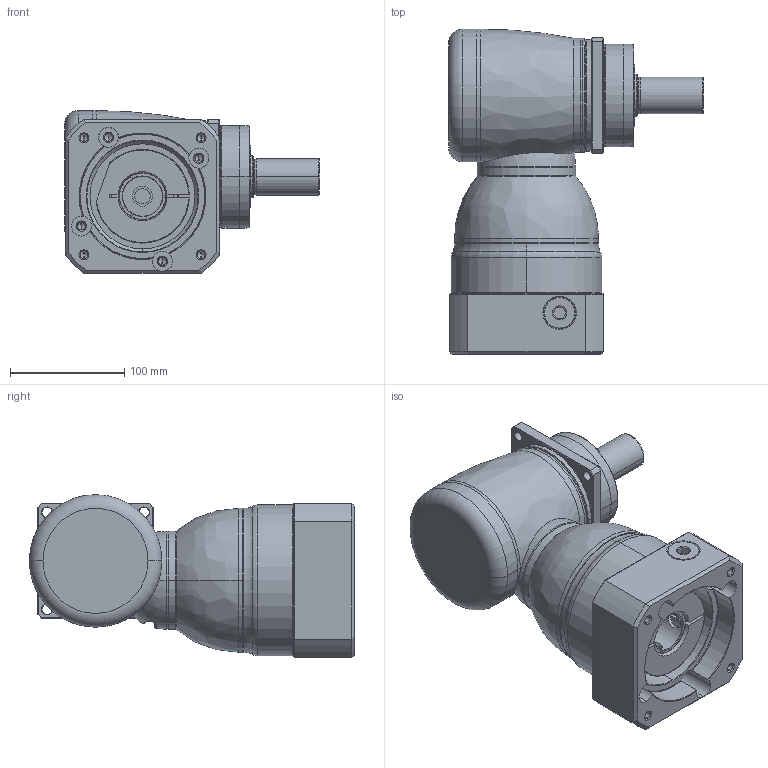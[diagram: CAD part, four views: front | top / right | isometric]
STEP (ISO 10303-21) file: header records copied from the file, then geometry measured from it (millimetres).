
FILE_DESCRIPTION((''),'2;1');
FILE_NAME('KF100_1ST_35-P0409800101_ASM','2016-06-22T',('d01943'),(''),'PRO/ENGINEER BY PARAMETRIC TECHNOLOGY CORPORATION, 2008410','PRO/ENGINEER BY PARAMETRIC TECHNOLOGY CORPORATION, 2008410','');
FILE_SCHEMA(('CONFIG_CONTROL_DESIGN'));
Length unit declared in the file: millimetre
Products named in the file (11): P1008400002; P1804400001; P0915400001; P1315400001; P1007400001; P1318400401; P0409800101; P0503800012; P0912404001; 21711422019; KF100_1ST_35-P0409800101_ASM
Assembly tree (10 placements, depth 2):
  KF100_1ST_35-P0409800101_ASM
    P1008400002
    P1804400001
    P0915400001
    P1315400001
    P1007400001
    P1318400401
    P0409800101
    P0503800012
    P0912404001
    21711422019
Bounding box: 223.3 x 285 x 142.5 mm (x, y, z)
Volume: 2639485.3 mm3; surface area: 390083.6 mm2
Topology: 11 solids, 11 shells, 496 faces, 1125 edges, 671 vertices
Faces by surface type: cylinder 168, cone 126, plane 102, torus 62, bspline 36, sphere 2
Entity records: 19915 total; most frequent: CARTESIAN_POINT 8604, DIRECTION 2471, ORIENTED_EDGE 2214, EDGE_CURVE 1107, AXIS2_PLACEMENT_3D 1050, VERTEX_POINT 671, CIRCLE 569, EDGE_LOOP 568
